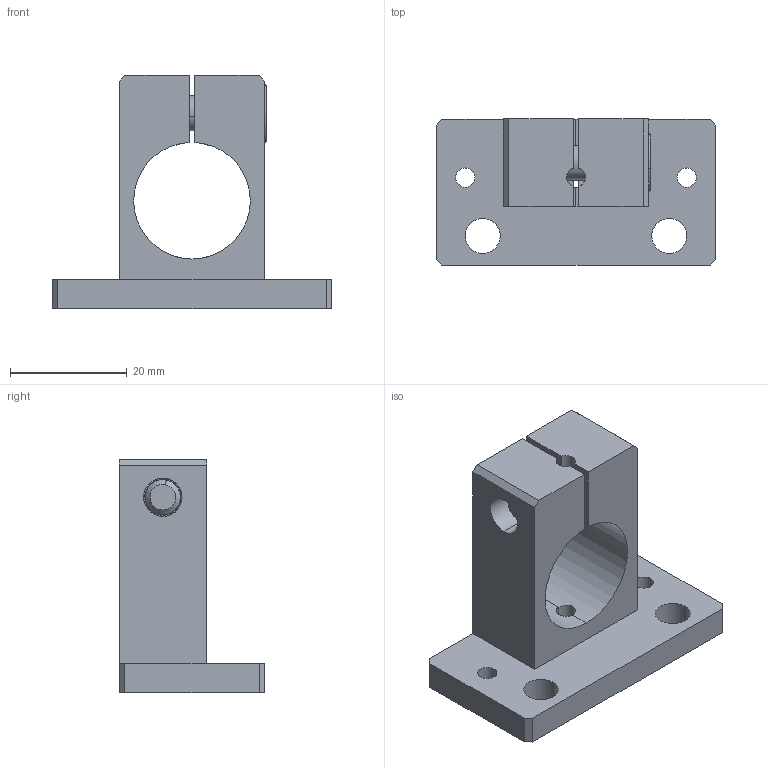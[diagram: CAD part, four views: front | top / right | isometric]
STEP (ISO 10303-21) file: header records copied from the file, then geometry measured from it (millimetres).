
FILE_DESCRIPTION (( 'STEP AP214' ), '1' );
FILE_NAME ('SMBU8-20T.STEP', '2023-01-05T02:21:48', ( 'Windows User' ), ( 'P R C' ), 'SwSTEP 2.0', 'SolidWorks 2018', '' );
FILE_SCHEMA (( 'AUTOMOTIVE_DESIGN' ));
Length unit declared in the file: millimetre
Products named in the file (1): SMBU8-20T
Bounding box: 48 x 25 x 40 mm (x, y, z)
Surface area: 8004.1 mm2 (no closed solid volume)
Topology: 0 solids, 5 shells, 214 faces, 624 edges, 415 vertices
Faces by surface type: plane 176, cylinder 32, cone 4, bspline 2
Entity records: 9735 total; most frequent: CARTESIAN_POINT 1479, ORIENTED_EDGE 1242, DIRECTION 1239, EDGE_CURVE 623, AXIS2_PLACEMENT_3D 418, VERTEX_POINT 414, LINE 403, VECTOR 403
